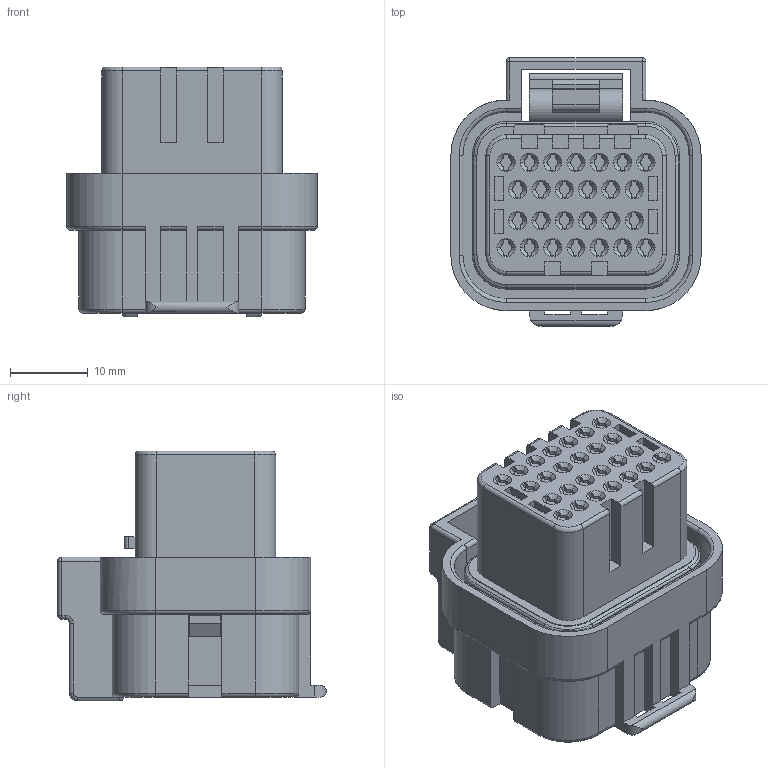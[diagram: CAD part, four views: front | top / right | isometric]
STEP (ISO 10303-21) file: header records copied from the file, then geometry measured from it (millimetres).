
FILE_DESCRIPTION((''),'2;1');
FILE_NAME('C-1473416-2','2016-03-19T',('workeradm'),('Tyco Electronics Ltd.'),'CREO PARAMETRIC BY PTC INC, 2015200','CREO PARAMETRIC BY PTC INC, 2015200','');
FILE_SCHEMA(('AUTOMOTIVE_DESIGN { 1 0 10303 214 1 1 1 1 }'));
Length unit declared in the file: millimetre
Products named in the file (1): C-1473416-2
Bounding box: 32.2 x 34.55 x 32.15 mm (x, y, z)
Volume: 17737.8 mm3; surface area: 7505.7 mm2
Topology: 1 solids, 1 shells, 676 faces, 1742 edges, 1128 vertices
Faces by surface type: plane 382, cylinder 204, bspline 54, torus 26, sphere 6, cone 4
Entity records: 22828 total; most frequent: CARTESIAN_POINT 6290, ORIENTED_EDGE 3480, DIRECTION 3362, EDGE_CURVE 1740, AXIS2_PLACEMENT_3D 1162, VERTEX_POINT 1128, VECTOR 1038, LINE 1038
